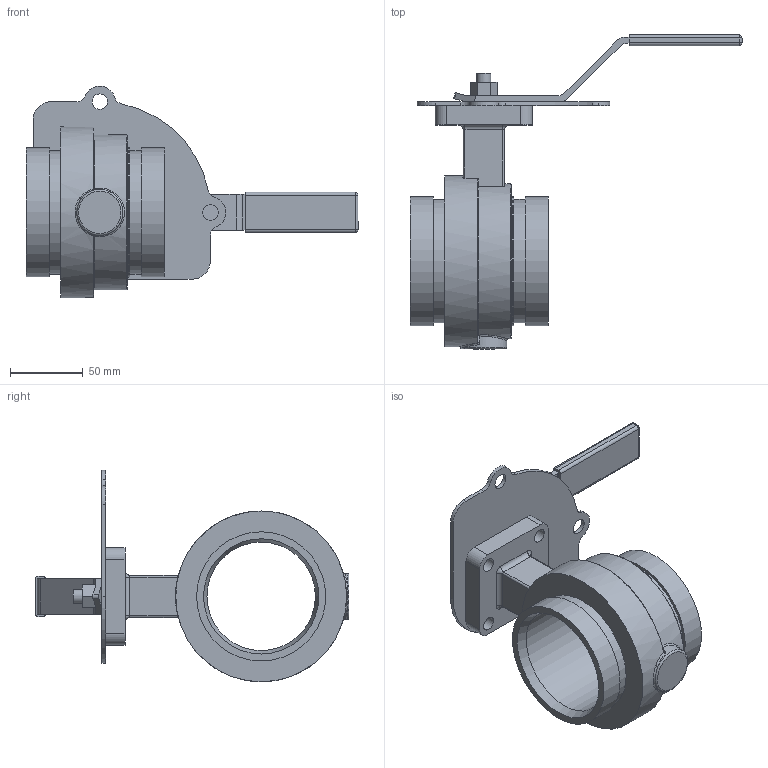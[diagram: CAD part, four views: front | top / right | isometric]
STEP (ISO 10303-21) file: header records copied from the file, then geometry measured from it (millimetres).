
FILE_DESCRIPTION(/* description */ ('Vic Series 461 Vic-300 SS w/ Lever Handle Butterfly Valve','CAx-IF Rec.Pracs.---Representation and Presentation of Product Manufacturing Information (PMI)---4.0---2014-10-13'),/* implementation_level */ '2;1');
FILE_NAME(/* name */ 'C:\Users\kkamble\AppData\Roaming\Autodesk\ApplicationPlugins\Back Up\Victaulic_SS-OGS_Valve Butterfly Vic-300 Masterseal Lever Handle_Series 461 (OGS)\Victaulic_SS-OGS_Valve Butterfly Vic-300 Masterseal Lever Handle_3 (80).stp',/* time_stamp */ '2020-09-02T14:52:23+05:00',/* author */ ('jbrannon'),/* organization */ ('Victaulic'),/* preprocessor_version */ 'ST-DEVELOPER v17.2',/* originating_system */ 'Autodesk Inventor 2019',/* authorisation */ '');
FILE_SCHEMA (('AP242_MANAGED_MODEL_BASED_3D_ENGINEERING_MIM_LF { 1 0 10303 442 1 1 4 }'));
Length unit declared in the file: inch
Products named in the file (4): 461-03.0; 461-03.0_1; 461-02.0; 461-03.0_2
Assembly tree (3 placements, depth 2):
  461-03.0
    461-03.0_1
    461-02.0
    461-03.0_2
Bounding box: 228.59 x 216.16 x 145.66 mm (x, y, z)
Volume: 481255.2 mm3; surface area: 124761.2 mm2
Topology: 3 solids, 3 shells, 156 faces, 389 edges, 247 vertices
Faces by surface type: cylinder 66, plane 53, bspline 16, torus 13, sphere 6, cone 2
Full cylindrical faces by diameter (mm): 9.652 x10, 10.668 x2, 18.288 x1, 54.102 x1, 74.676 x1, 84.938 x2, 88.9 x3, 106.68 x1, 117.602 x1
Entity records: 5559 total; most frequent: CARTESIAN_POINT 1416, DIRECTION 828, ORIENTED_EDGE 774, EDGE_CURVE 387, AXIS2_PLACEMENT_3D 329, VERTEX_POINT 247, EDGE_LOOP 192, CIRCLE 182
